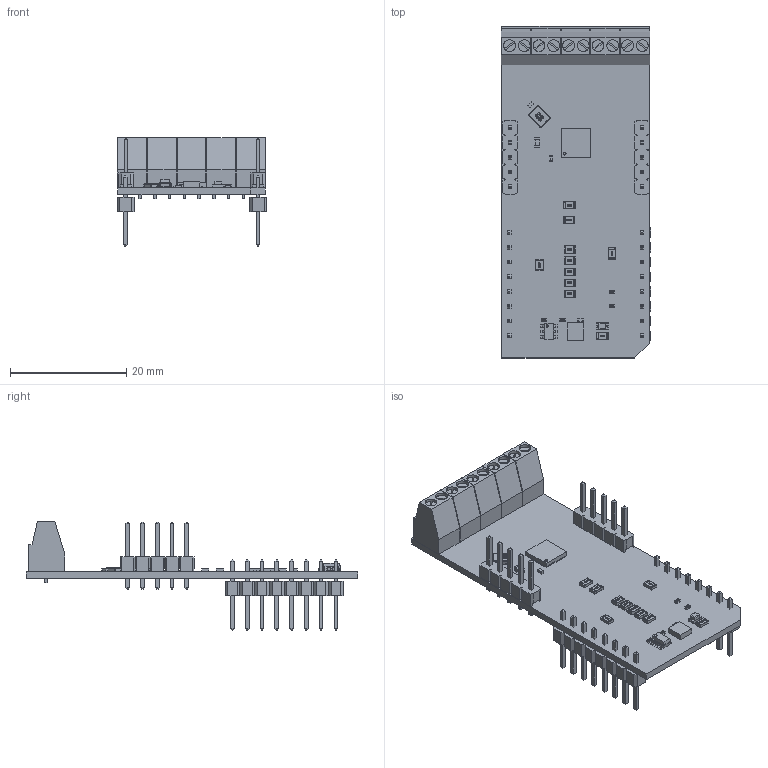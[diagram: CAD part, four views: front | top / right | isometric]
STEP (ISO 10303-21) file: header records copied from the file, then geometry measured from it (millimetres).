
FILE_DESCRIPTION(('Open CASCADE Model'),'2;1');
FILE_NAME('Open CASCADE Shape Model','2025-09-09T13:56:44',('Author'),( 'Open CASCADE'),'Open CASCADE STEP processor 6.8','Open CASCADE 6.8' ,'Unknown');
FILE_SCHEMA(('AUTOMOTIVE_DESIGN { 1 0 10303 214 1 1 1 1 }'));
Length unit declared in the file: millimetre
Products named in the file (49): PCB; Board; U3; User_Library-SOT23-6-2; U2; 1426536712; Extruded; R7; User_Library-R_0402; C3; User_Library-SMD_CAPACITOR0402; JP6; User_Library-R_0805; JP7; R6; R5; JP5; JP4; JP3; JP2; JP1; U1; C8051F349-GMR; R4; R3; R2; J1; HM1x5; 6130xx11121_PIN; 61300511121; CN1; User_Library-Connector-2; C2; User_Library-SMD_CAPACITOR0603; C1; MBD1; Header_1x8; Free-Models; 1240637040; User_Library-PinHeaderX5-1_PinHeaderX5_Body_1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
Assembly tree (73 placements, depth 7):
  PCB
    Board
    U3
      User_Library-SOT23-6-2
    U2
      1426536712
        Extruded
    R7
      User_Library-R_0402
    C3
      User_Library-SMD_CAPACITOR0402
    JP6
      User_Library-R_0805
    JP7
      User_Library-R_0805
    R6
      User_Library-R_0402
    R5
      User_Library-R_0402
    JP5
      User_Library-R_0805
    JP4
      User_Library-R_0805
    JP3
      User_Library-R_0805
    JP2
      User_Library-R_0805
    JP1
      User_Library-R_0805
    U1
      C8051F349-GMR
    R4
      User_Library-R_0805
    R3
      User_Library-R_0805
    R2
      User_Library-R_0402
    J1
      HM1x5
        6130xx11121_PIN  x5
        61300511121
    CN1
      User_Library-Connector-2  x5
    C2
      User_Library-SMD_CAPACITOR0603
    C1
      User_Library-SMD_CAPACITOR0402
    MBD1
      Header_1x8  x2
        PCB
          Free-Models
            1240637040  x2
              User_Library-PinHeaderX5-1_PinHeaderX5_Body_1
              User_Library-PinHeaderX5-1_PinHeaderX5_Pins_1
    LD1
      led_0805_green
    R1
      User_Library-R_0805
    C4
      User_Library-SMD_CAPACITOR0402
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Bounding box: 25.78 x 57.15 x 18.75 mm (x, y, z)
Volume: 3494.5 mm3; surface area: 6887.6 mm2
Topology: 140 solids, 140 shells, 3244 faces, 8015 edges, 5166 vertices
Faces by surface type: plane 2427, bspline 568, cylinder 211, sphere 38
Entity records: 46822 total; most frequent: CARTESIAN_POINT 11822, ORIENTED_EDGE 6048, DIRECTION 5507, EDGE_CURVE 3024, LINE 2441, VECTOR 2441, VERTEX_POINT 1964, AXIS2_PLACEMENT_3D 1533
